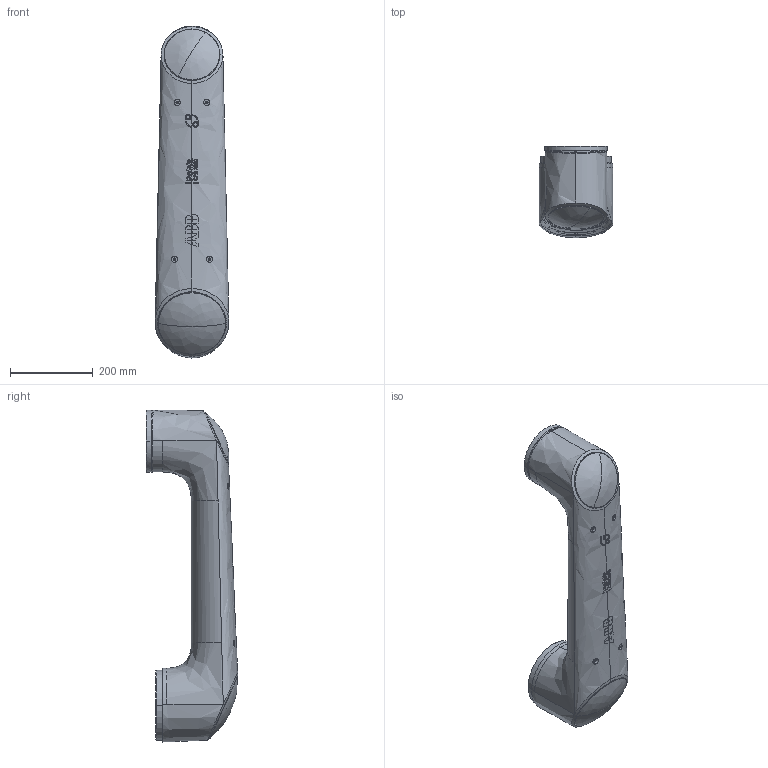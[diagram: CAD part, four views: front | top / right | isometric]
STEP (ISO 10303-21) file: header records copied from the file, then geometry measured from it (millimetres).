
FILE_DESCRIPTION (( 'STEP AP214' ), '1' );
FILE_NAME ('CRB1920_30kg-1350_OmniCore_rev00_Link2.step', '2026-03-06T03:43:09', ( '' ), ( '' ), 'SwSTEP 2.0', 'SolidWorks 2022', '' );
FILE_SCHEMA (( 'AUTOMOTIVE_DESIGN' ));
Length unit declared in the file: millimetre
Products named in the file (1): CRB1920_30kg-1350_OmniCore_rev00_Link2
Bounding box: 178.97 x 221.35 x 804.69 mm (x, y, z)
Volume: 13874212.6 mm3; surface area: 461087.8 mm2
Topology: 1 solids, 1 shells, 480 faces, 1269 edges, 824 vertices
Faces by surface type: bspline 386, cylinder 40, plane 33, cone 11, torus 10
Entity records: 74622 total; most frequent: CARTESIAN_POINT 65602, ORIENTED_EDGE 2514, EDGE_CURVE 1257, B_SPLINE_CURVE_WITH_KNOTS 1074, VERTEX_POINT 824, EDGE_LOOP 525, FACE_OUTER_BOUND 480, ADVANCED_FACE 480
